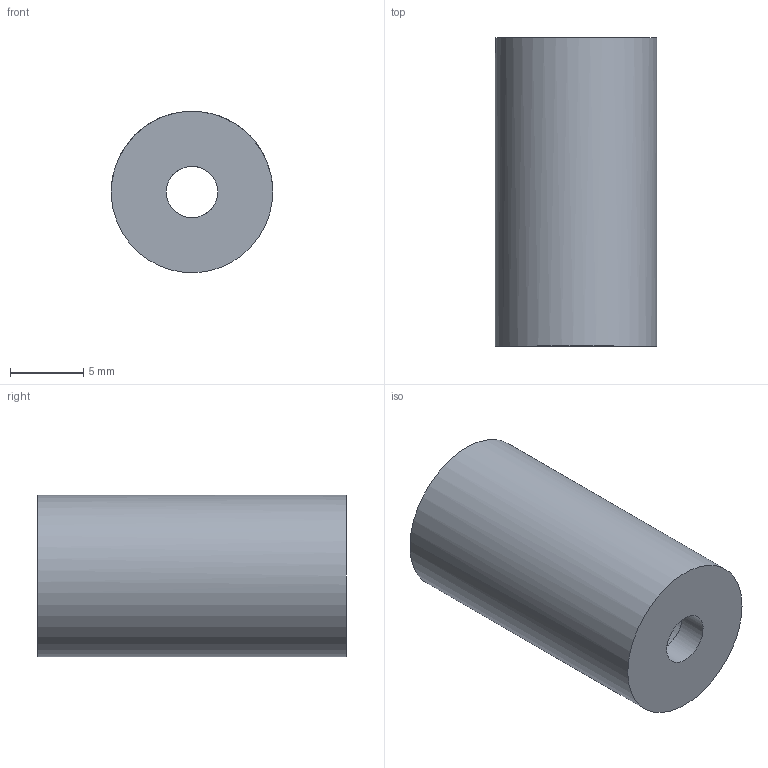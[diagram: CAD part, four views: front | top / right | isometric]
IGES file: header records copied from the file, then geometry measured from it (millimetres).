
Global section: file name: Hülse,; native system: Autodesk Inventor 2020; preprocessor: unknown; author: Niklas; date: 20200907.165921; units: millimetre
Bounding box: 11 x 21 x 10.99 mm (x, y, z)
Volume: 1244.7 mm3; surface area: 1337.4 mm2
Topology: 1 solids, 1 shells, 6 faces, 12 edges, 9 vertices
Faces by surface type: bspline 6
